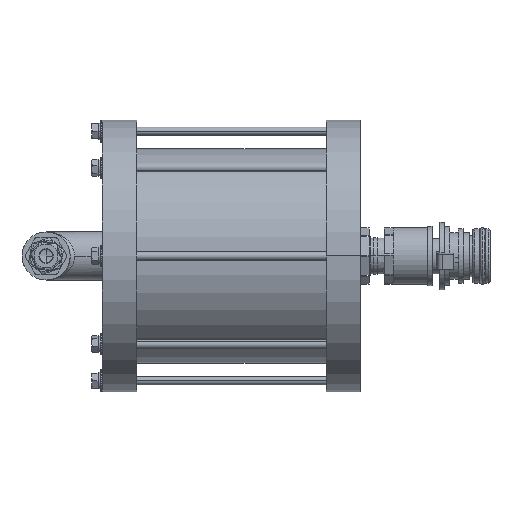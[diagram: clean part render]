
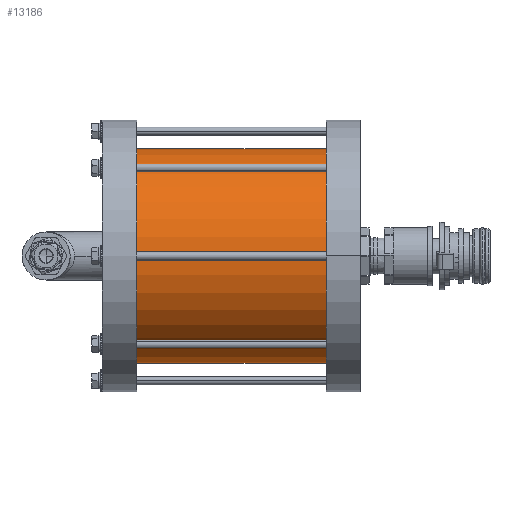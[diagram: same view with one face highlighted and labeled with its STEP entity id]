
A CAD part, left-side view. The second image highlights one B-rep face of the part: STEP entity #13186.
In plain terms, the highlighted cylindrical face has radius 79.375 mm (diameter 158.75 mm), a partial arc.
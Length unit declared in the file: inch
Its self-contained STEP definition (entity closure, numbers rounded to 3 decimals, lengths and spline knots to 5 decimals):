
#373 = CARTESIAN_POINT ( 'NONE',  ( 0., 6.625, -3.125 ) ) ;
#1021 = VERTEX_POINT ( 'NONE', #3936 ) ;
#1935 = DIRECTION ( 'NONE',  ( 0., 0., 1. ) ) ;
#2939 = DIRECTION ( 'NONE',  ( 0., 1., 0. ) ) ;
#3186 = VERTEX_POINT ( 'NONE', #32347 ) ;
#3734 = CARTESIAN_POINT ( 'NONE',  ( 0., 6.625, 3.125 ) ) ;
#3936 = CARTESIAN_POINT ( 'NONE',  ( 0., 0.875, 3.125 ) ) ;
#4517 = CARTESIAN_POINT ( 'NONE',  ( 0., 6.625, 0. ) ) ;
#7473 = DIRECTION ( 'NONE',  ( 0., -1., 0. ) ) ;
#9124 = EDGE_CURVE ( 'NONE', #23052, #1021, #40458, .T. ) ;
#9314 = LINE ( 'NONE', #373, #47970 ) ;
#9475 = ORIENTED_EDGE ( 'NONE', *, *, #9124, .F. ) ;
#11779 = VECTOR ( 'NONE', #7473, 39.37008 ) ;
#13186 = ADVANCED_FACE ( 'NONE', ( #14173 ), #41189, .T. ) ;
#14173 = FACE_OUTER_BOUND ( 'NONE', #32932, .T. ) ;
#15621 = DIRECTION ( 'NONE',  ( 0., -1., 0. ) ) ;
#16330 = VERTEX_POINT ( 'NONE', #17219 ) ;
#16906 = ORIENTED_EDGE ( 'NONE', *, *, #39101, .T. ) ;
#17219 = CARTESIAN_POINT ( 'NONE',  ( 0., 6.625, -3.125 ) ) ;
#21770 = AXIS2_PLACEMENT_3D ( 'NONE', #46694, #24281, #1935 ) ;
#22556 = EDGE_CURVE ( 'NONE', #16330, #23052, #38043, .T. ) ;
#23052 = VERTEX_POINT ( 'NONE', #33449 ) ;
#24281 = DIRECTION ( 'NONE',  ( 0., 1., 0. ) ) ;
#25292 = CARTESIAN_POINT ( 'NONE',  ( 0., 6.625, 0. ) ) ;
#26448 = EDGE_CURVE ( 'NONE', #16330, #3186, #9314, .T. ) ;
#29035 = DIRECTION ( 'NONE',  ( 0., 0., 1. ) ) ;
#32347 = CARTESIAN_POINT ( 'NONE',  ( 0., 0.875, -3.125 ) ) ;
#32932 = EDGE_LOOP ( 'NONE', ( #9475, #43750, #35180, #16906 ) ) ;
#33449 = CARTESIAN_POINT ( 'NONE',  ( 0., 6.625, 3.125 ) ) ;
#35180 = ORIENTED_EDGE ( 'NONE', *, *, #26448, .T. ) ;
#37610 = DIRECTION ( 'NONE',  ( 0., -1., 0. ) ) ;
#38043 = CIRCLE ( 'NONE', #42592, 3.125 ) ;
#38273 = CIRCLE ( 'NONE', #21770, 3.125 ) ;
#38771 = AXIS2_PLACEMENT_3D ( 'NONE', #4517, #15621, #45726 ) ;
#39101 = EDGE_CURVE ( 'NONE', #3186, #1021, #38273, .T. ) ;
#40458 = LINE ( 'NONE', #3734, #11779 ) ;
#41189 = CYLINDRICAL_SURFACE ( 'NONE', #38771, 3.125 ) ;
#42592 = AXIS2_PLACEMENT_3D ( 'NONE', #25292, #2939, #29035 ) ;
#43750 = ORIENTED_EDGE ( 'NONE', *, *, #22556, .F. ) ;
#45726 = DIRECTION ( 'NONE',  ( 0., 0., -1. ) ) ;
#46694 = CARTESIAN_POINT ( 'NONE',  ( 0., 0.875, 0. ) ) ;
#47970 = VECTOR ( 'NONE', #37610, 39.37008 ) ;
